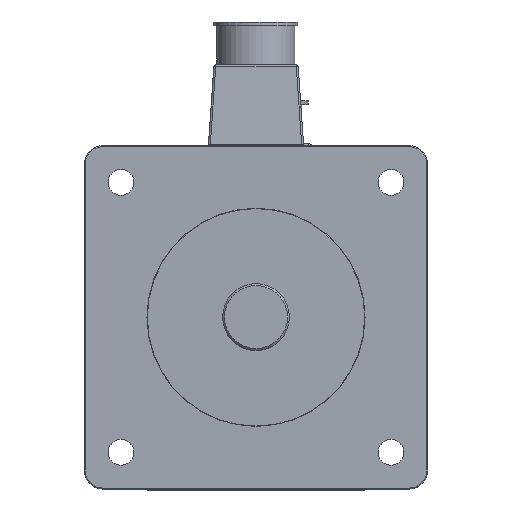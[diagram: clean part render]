
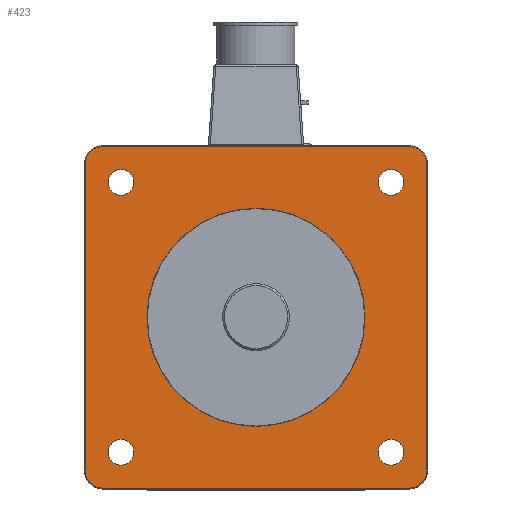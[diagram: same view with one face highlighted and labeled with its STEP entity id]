
A CAD part, top view. The second image highlights one B-rep face of the part: STEP entity #423.
In plain terms, the highlighted planar face has unit normal (0, 0, 1).
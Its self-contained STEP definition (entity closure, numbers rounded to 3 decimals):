
#423=ADVANCED_FACE('',(#888,#889,#890,#891,#892,#893),#616,.F.);
#616=PLANE('',#3007);
#673=CIRCLE('',#2995,57.15);
#675=CIRCLE('',#2999,6.75);
#676=CIRCLE('',#3000,6.75);
#677=CIRCLE('',#3001,6.75);
#678=CIRCLE('',#3002,6.75);
#679=CIRCLE('',#3003,9.5);
#680=CIRCLE('',#3004,9.5);
#681=CIRCLE('',#3005,9.5);
#682=CIRCLE('',#3006,9.5);
#888=FACE_BOUND('',#952,.T.);
#889=FACE_BOUND('',#953,.T.);
#890=FACE_BOUND('',#954,.T.);
#891=FACE_BOUND('',#955,.T.);
#892=FACE_BOUND('',#956,.T.);
#893=FACE_BOUND('',#957,.T.);
#952=EDGE_LOOP('',(#1246));
#953=EDGE_LOOP('',(#1247));
#954=EDGE_LOOP('',(#1248));
#955=EDGE_LOOP('',(#1249));
#956=EDGE_LOOP('',(#1250,#1251,#1252,#1253,#1254,#1255,#1256,#1257));
#957=EDGE_LOOP('',(#1258));
#1246=ORIENTED_EDGE('',*,*,#2293,.F.);
#1247=ORIENTED_EDGE('',*,*,#2294,.F.);
#1248=ORIENTED_EDGE('',*,*,#2295,.F.);
#1249=ORIENTED_EDGE('',*,*,#2296,.F.);
#1250=ORIENTED_EDGE('',*,*,#2297,.T.);
#1251=ORIENTED_EDGE('',*,*,#2298,.T.);
#1252=ORIENTED_EDGE('',*,*,#2299,.T.);
#1253=ORIENTED_EDGE('',*,*,#2300,.T.);
#1254=ORIENTED_EDGE('',*,*,#2301,.T.);
#1255=ORIENTED_EDGE('',*,*,#2302,.T.);
#1256=ORIENTED_EDGE('',*,*,#2303,.T.);
#1257=ORIENTED_EDGE('',*,*,#2304,.T.);
#1258=ORIENTED_EDGE('',*,*,#2291,.T.);
#2053=VERTEX_POINT('',#4467);
#2055=VERTEX_POINT('',#4473);
#2056=VERTEX_POINT('',#4475);
#2057=VERTEX_POINT('',#4477);
#2058=VERTEX_POINT('',#4479);
#2059=VERTEX_POINT('',#4481);
#2060=VERTEX_POINT('',#4482);
#2061=VERTEX_POINT('',#4484);
#2062=VERTEX_POINT('',#4486);
#2063=VERTEX_POINT('',#4488);
#2064=VERTEX_POINT('',#4490);
#2065=VERTEX_POINT('',#4492);
#2066=VERTEX_POINT('',#4494);
#2291=EDGE_CURVE('',#2053,#2053,#673,.T.);
#2293=EDGE_CURVE('',#2055,#2055,#675,.T.);
#2294=EDGE_CURVE('',#2056,#2056,#676,.T.);
#2295=EDGE_CURVE('',#2057,#2057,#677,.T.);
#2296=EDGE_CURVE('',#2058,#2058,#678,.T.);
#2297=EDGE_CURVE('',#2059,#2060,#2668,.T.);
#2298=EDGE_CURVE('',#2060,#2061,#679,.T.);
#2299=EDGE_CURVE('',#2061,#2062,#2669,.T.);
#2300=EDGE_CURVE('',#2062,#2063,#680,.T.);
#2301=EDGE_CURVE('',#2063,#2064,#2670,.T.);
#2302=EDGE_CURVE('',#2064,#2065,#681,.T.);
#2303=EDGE_CURVE('',#2065,#2066,#2671,.T.);
#2304=EDGE_CURVE('',#2066,#2059,#682,.T.);
#2668=LINE('',#4480,#2829);
#2669=LINE('',#4485,#2830);
#2670=LINE('',#4489,#2831);
#2671=LINE('',#4493,#2832);
#2829=VECTOR('',#3478,1.);
#2830=VECTOR('',#3481,1.);
#2831=VECTOR('',#3484,1.);
#2832=VECTOR('',#3487,1.);
#2995=AXIS2_PLACEMENT_3D('',#4466,#3462,#3463);
#2999=AXIS2_PLACEMENT_3D('',#4472,#3470,#3471);
#3000=AXIS2_PLACEMENT_3D('',#4474,#3472,#3473);
#3001=AXIS2_PLACEMENT_3D('',#4476,#3474,#3475);
#3002=AXIS2_PLACEMENT_3D('',#4478,#3476,#3477);
#3003=AXIS2_PLACEMENT_3D('',#4483,#3479,#3480);
#3004=AXIS2_PLACEMENT_3D('',#4487,#3482,#3483);
#3005=AXIS2_PLACEMENT_3D('',#4491,#3485,#3486);
#3006=AXIS2_PLACEMENT_3D('',#4495,#3488,#3489);
#3007=AXIS2_PLACEMENT_3D('',#4496,#3490,#3491);
#3462=DIRECTION('',(0.,0.,-1.));
#3463=DIRECTION('',(1.,0.,0.));
#3470=DIRECTION('',(0.,0.,1.));
#3471=DIRECTION('',(0.,1.,0.));
#3472=DIRECTION('',(0.,0.,1.));
#3473=DIRECTION('',(1.,0.,0.));
#3474=DIRECTION('',(0.,0.,1.));
#3475=DIRECTION('',(-1.,0.,0.));
#3476=DIRECTION('',(0.,0.,1.));
#3477=DIRECTION('',(0.,-1.,0.));
#3478=DIRECTION('',(0.,-1.,0.));
#3479=DIRECTION('',(0.,0.,1.));
#3480=DIRECTION('',(-1.,0.,0.));
#3481=DIRECTION('',(1.,0.,0.));
#3482=DIRECTION('',(0.,0.,1.));
#3483=DIRECTION('',(-1.,0.,0.));
#3484=DIRECTION('',(0.,1.,0.));
#3485=DIRECTION('',(0.,0.,1.));
#3486=DIRECTION('',(-1.,0.,0.));
#3487=DIRECTION('',(-1.,0.,0.));
#3488=DIRECTION('',(0.,0.,1.));
#3489=DIRECTION('',(-1.,0.,0.));
#3490=DIRECTION('',(0.,0.,-1.));
#3491=DIRECTION('',(-1.,0.,0.));
#4466=CARTESIAN_POINT('',(0.,0.,-3.2));
#4467=CARTESIAN_POINT('',(57.15,0.,-3.2));
#4472=CARTESIAN_POINT('',(-70.711,-70.711,-3.2));
#4473=CARTESIAN_POINT('',(-70.711,-63.961,-3.2));
#4474=CARTESIAN_POINT('',(-70.711,70.711,-3.2));
#4475=CARTESIAN_POINT('',(-63.961,70.711,-3.2));
#4476=CARTESIAN_POINT('',(70.711,-70.711,-3.2));
#4477=CARTESIAN_POINT('',(63.961,-70.711,-3.2));
#4478=CARTESIAN_POINT('',(70.711,70.711,-3.2));
#4479=CARTESIAN_POINT('',(70.711,63.961,-3.2));
#4480=CARTESIAN_POINT('',(-89.5,90.,-3.2));
#4481=CARTESIAN_POINT('',(-89.5,80.,-3.2));
#4482=CARTESIAN_POINT('',(-89.5,-80.,-3.2));
#4483=CARTESIAN_POINT('',(-80.,-80.,-3.2));
#4484=CARTESIAN_POINT('',(-80.,-89.5,-3.2));
#4485=CARTESIAN_POINT('',(-90.,-89.5,-3.2));
#4486=CARTESIAN_POINT('',(80.,-89.5,-3.2));
#4487=CARTESIAN_POINT('',(80.,-80.,-3.2));
#4488=CARTESIAN_POINT('',(89.5,-80.,-3.2));
#4489=CARTESIAN_POINT('',(89.5,90.,-3.2));
#4490=CARTESIAN_POINT('',(89.5,80.,-3.2));
#4491=CARTESIAN_POINT('',(80.,80.,-3.2));
#4492=CARTESIAN_POINT('',(80.,89.5,-3.2));
#4493=CARTESIAN_POINT('',(-90.,89.5,-3.2));
#4494=CARTESIAN_POINT('',(-80.,89.5,-3.2));
#4495=CARTESIAN_POINT('',(-80.,80.,-3.2));
#4496=CARTESIAN_POINT('',(-90.,90.,-3.2));
